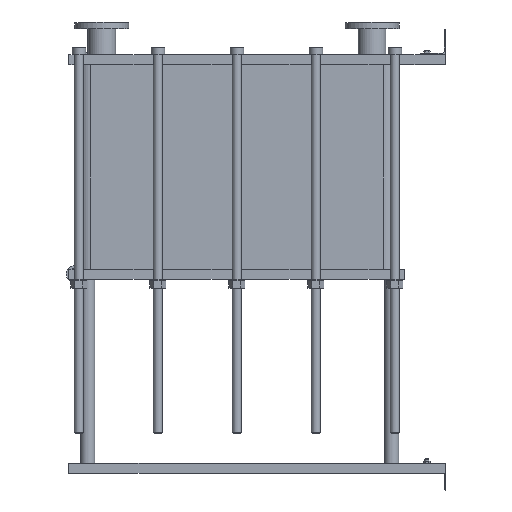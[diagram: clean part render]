
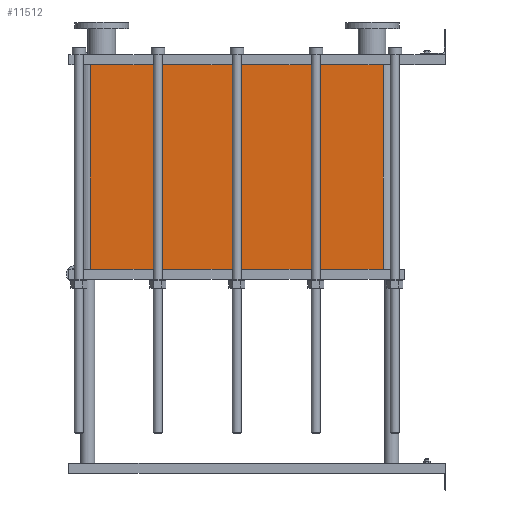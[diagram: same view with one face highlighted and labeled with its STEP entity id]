
A CAD part, left-side view. The second image highlights one B-rep face of the part: STEP entity #11512.
In plain terms, the highlighted planar face has unit normal (-1, 0, 0).
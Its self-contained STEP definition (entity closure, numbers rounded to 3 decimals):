
#1129=LINE('',#23232,#2102);
#1130=LINE('',#23236,#2103);
#1131=LINE('',#23238,#2104);
#1132=LINE('',#23239,#2105);
#2102=VECTOR('',#15887,10.);
#2103=VECTOR('',#15892,10.);
#2104=VECTOR('',#15893,10.);
#2105=VECTOR('',#15894,10.);
#3267=FACE_OUTER_BOUND('',#4093,.T.);
#4093=EDGE_LOOP('',(#10103,#10104,#10105,#10106));
#5642=VERTEX_POINT('',#23229);
#5643=VERTEX_POINT('',#23231);
#5644=VERTEX_POINT('',#23235);
#5645=VERTEX_POINT('',#23237);
#7159=EDGE_CURVE('',#5643,#5642,#1129,.T.);
#7161=EDGE_CURVE('',#5642,#5644,#1130,.T.);
#7162=EDGE_CURVE('',#5645,#5644,#1131,.T.);
#7163=EDGE_CURVE('',#5645,#5643,#1132,.T.);
#10103=ORIENTED_EDGE('',*,*,#7161,.T.);
#10104=ORIENTED_EDGE('',*,*,#7162,.F.);
#10105=ORIENTED_EDGE('',*,*,#7163,.T.);
#10106=ORIENTED_EDGE('',*,*,#7159,.T.);
#10857=PLANE('',#12751);
#11512=ADVANCED_FACE('',(#3267),#10857,.T.);
#12751=AXIS2_PLACEMENT_3D('',#23234,#15890,#15891);
#15887=DIRECTION('',(0.,0.,-1.));
#15890=DIRECTION('center_axis',(-1.,0.,0.));
#15891=DIRECTION('ref_axis',(0.,1.,0.));
#15892=DIRECTION('',(0.,-1.,0.));
#15893=DIRECTION('',(0.,0.,-1.));
#15894=DIRECTION('',(0.,1.,0.));
#23229=CARTESIAN_POINT('',(-200.,1414.,-814.2));
#23231=CARTESIAN_POINT('',(-200.,1414.,0.));
#23232=CARTESIAN_POINT('',(-200.,1414.,0.));
#23234=CARTESIAN_POINT('Origin',(-200.,248.,0.));
#23235=CARTESIAN_POINT('',(-200.,248.,-814.2));
#23236=CARTESIAN_POINT('',(-200.,539.5,-814.2));
#23237=CARTESIAN_POINT('',(-200.,248.,0.));
#23238=CARTESIAN_POINT('',(-200.,248.,0.));
#23239=CARTESIAN_POINT('',(-200.,248.,0.));
